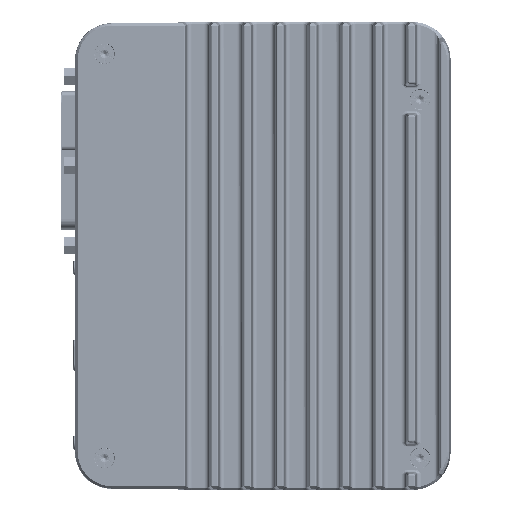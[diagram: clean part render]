
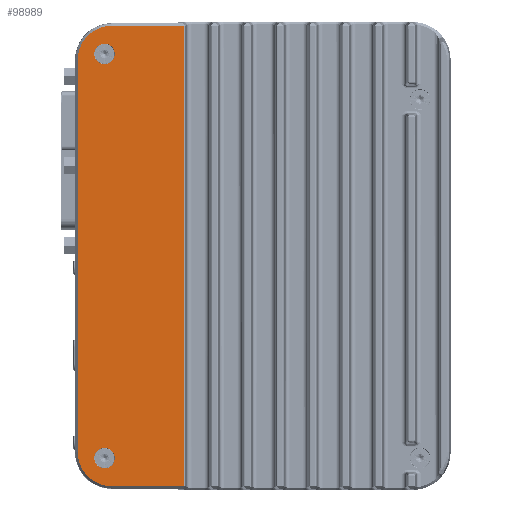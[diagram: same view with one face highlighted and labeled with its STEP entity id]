
A CAD part, left-side view. The second image highlights one B-rep face of the part: STEP entity #98989.
In plain terms, the highlighted planar face has unit normal (-1, 0, 0).
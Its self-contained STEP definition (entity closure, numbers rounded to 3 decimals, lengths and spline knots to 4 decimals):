
#14647=DIRECTION('',(0.,1.,0.));
#14648=VECTOR('',#14647,0.7905);
#14649=CARTESIAN_POINT('',(-0.15,0.8595,2.525));
#14650=LINE('',#14649,#14648);
#14651=DIRECTION('',(0.,0.,1.));
#14652=VECTOR('',#14651,5.05);
#14653=CARTESIAN_POINT('',(-0.15,0.8595,-2.525));
#14654=LINE('',#14653,#14652);
#14655=DIRECTION('',(0.,-1.,0.));
#14656=VECTOR('',#14655,0.7905);
#14657=CARTESIAN_POINT('',(-0.15,1.65,
-2.525));
#14658=LINE('',#14657,#14656);
#14659=CARTESIAN_POINT('',(-0.15,1.65,-2.15));
#14660=DIRECTION('',(-1.,0.,0.));
#14661=DIRECTION('',(0.,1.,0.));
#14662=AXIS2_PLACEMENT_3D('',#14659,#14660,#14661);
#14664=DIRECTION('',(0.,0.,-1.));
#14665=VECTOR('',#14664,4.3);
#14666=CARTESIAN_POINT('',(-0.15,2.025,
2.15));
#14667=LINE('',#14666,#14665);
#14668=CARTESIAN_POINT('',(-0.15,1.65,2.15));
#14669=DIRECTION('',(-1.,0.,0.));
#14670=DIRECTION('',(0.,0.,1.));
#14671=AXIS2_PLACEMENT_3D('',#14668,#14669,#14670);
#14673=CARTESIAN_POINT('',(-0.15,1.73,2.2166));
#14674=DIRECTION('',(-1.,0.,0.));
#14675=DIRECTION('',(0.,-1.,0.));
#14676=AXIS2_PLACEMENT_3D('',#14673,#14674,#14675);
#14678=CARTESIAN_POINT('',(-0.15,1.73,2.2166));
#14679=DIRECTION('',(-1.,0.,0.));
#14680=DIRECTION('',(0.,1.,0.));
#14681=AXIS2_PLACEMENT_3D('',#14678,#14679,#14680);
#14683=CARTESIAN_POINT('',(-0.15,1.73,-2.2166));
#14684=DIRECTION('',(-1.,0.,0.));
#14685=DIRECTION('',(0.,-1.,0.));
#14686=AXIS2_PLACEMENT_3D('',#14683,#14684,#14685);
#14688=CARTESIAN_POINT('',(-0.15,1.73,-2.2166));
#14689=DIRECTION('',(-1.,0.,0.));
#14690=DIRECTION('',(0.,1.,0.));
#14691=AXIS2_PLACEMENT_3D('',#14688,#14689,#14690);
#14703=CARTESIAN_POINT('',(-0.15,0.8595,-2.525));
#14711=CARTESIAN_POINT('',(-0.15,0.8595,2.525));
#74356=CARTESIAN_POINT('',(-0.15,1.6175,2.2166));
#74357=CARTESIAN_POINT('',(-0.15,1.8425,2.2166));
#74358=VERTEX_POINT('',#74356);
#74359=VERTEX_POINT('',#74357);
#74364=CARTESIAN_POINT('',(-0.15,1.6175,-2.2166));
#74365=CARTESIAN_POINT('',(-0.15,1.8425,-2.2166));
#74366=VERTEX_POINT('',#74364);
#74367=VERTEX_POINT('',#74365);
#74689=VERTEX_POINT('',#14711);
#74690=CARTESIAN_POINT('',(-0.15,1.65,
2.525));
#74691=VERTEX_POINT('',#74690);
#74694=CARTESIAN_POINT('',(-0.15,2.025,2.15));
#74695=VERTEX_POINT('',#74694);
#74698=CARTESIAN_POINT('',(-0.15,2.025,
-2.15));
#74699=VERTEX_POINT('',#74698);
#74702=CARTESIAN_POINT('',(-0.15,1.65,-2.525));
#74703=VERTEX_POINT('',#74702);
#74706=VERTEX_POINT('',#14703);
#98960=CARTESIAN_POINT('',(-0.15,0.,0.));
#98961=DIRECTION('',(1.,0.,0.));
#98962=DIRECTION('',(0.,-1.,0.));
#98963=AXIS2_PLACEMENT_3D('',#98960,#98961,#98962);
#98964=PLANE('',#98963);
#98966=ORIENTED_EDGE('',*,*,#98965,.F.);
#98968=ORIENTED_EDGE('',*,*,#98967,.F.);
#98969=ORIENTED_EDGE('',*,*,#98938,.F.);
#98970=ORIENTED_EDGE('',*,*,#98950,.F.);
#98972=ORIENTED_EDGE('',*,*,#98971,.F.);
#98974=ORIENTED_EDGE('',*,*,#98973,.F.);
#98975=EDGE_LOOP('',(#98966,#98968,#98969,#98970,#98972,#98974));
#98976=FACE_OUTER_BOUND('',#98975,.F.);
#98978=ORIENTED_EDGE('',*,*,#98977,.T.);
#98980=ORIENTED_EDGE('',*,*,#98979,.T.);
#98981=EDGE_LOOP('',(#98978,#98980));
#98982=FACE_BOUND('',#98981,.F.);
#98984=ORIENTED_EDGE('',*,*,#98983,.T.);
#98986=ORIENTED_EDGE('',*,*,#98985,.T.);
#98987=EDGE_LOOP('',(#98984,#98986));
#98988=FACE_BOUND('',#98987,.F.);
#98989=ADVANCED_FACE('',(#98976,#98982,#98988),#98964,.F.);
#14663=CIRCLE('',#14662,0.375);
#14672=CIRCLE('',#14671,0.375);
#14677=CIRCLE('',#14676,0.1125);
#14682=CIRCLE('',#14681,0.1125);
#14687=CIRCLE('',#14686,0.1125);
#14692=CIRCLE('',#14691,0.1125);
#98938=EDGE_CURVE('',#74703,#74706,#14658,.T.);
#98950=EDGE_CURVE('',#74699,#74703,#14663,.T.);
#98965=EDGE_CURVE('',#74689,#74691,#14650,.T.);
#98967=EDGE_CURVE('',#74706,#74689,#14654,.T.);
#98971=EDGE_CURVE('',#74695,#74699,#14667,.T.);
#98973=EDGE_CURVE('',#74691,#74695,#14672,.T.);
#98977=EDGE_CURVE('',#74358,#74359,#14677,.T.);
#98979=EDGE_CURVE('',#74359,#74358,#14682,.T.);
#98983=EDGE_CURVE('',#74366,#74367,#14687,.T.);
#98985=EDGE_CURVE('',#74367,#74366,#14692,.T.);
